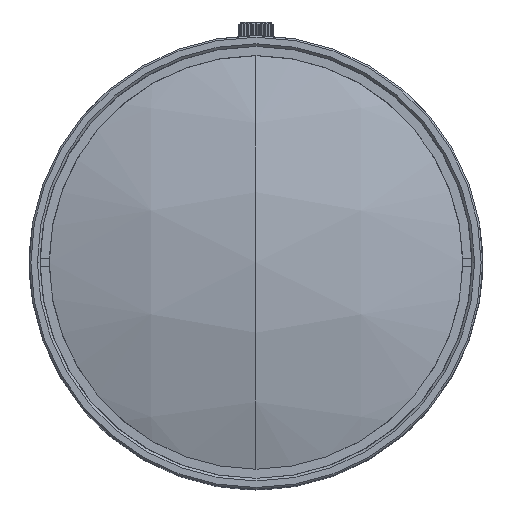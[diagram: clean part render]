
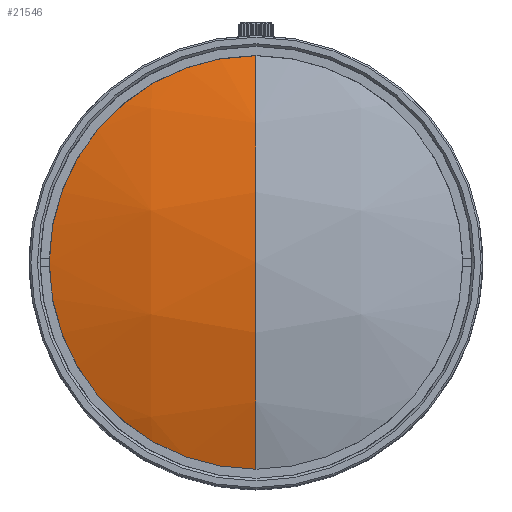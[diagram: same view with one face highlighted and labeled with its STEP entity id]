
A CAD part, top view. The second image highlights one B-rep face of the part: STEP entity #21546.
In plain terms, the highlighted spherical face has radius 71 mm.
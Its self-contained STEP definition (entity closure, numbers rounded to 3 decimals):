
#744 = CARTESIAN_POINT ( 'NONE',  ( 0., -23.733, 95.416 ) ) ;
#1112 = ORIENTED_EDGE ( 'NONE', *, *, #12183, .F. ) ;
#2646 = DIRECTION ( 'NONE',  ( -1., 0., 0. ) ) ;
#3072 = CARTESIAN_POINT ( 'NONE',  ( 0., 23.733, 95.416 ) ) ;
#3643 = CARTESIAN_POINT ( 'NONE',  ( 0., 0., 28.5 ) ) ;
#4101 = DIRECTION ( 'NONE',  ( 0., 0., -1. ) ) ;
#5099 = EDGE_CURVE ( 'NONE', #21226, #8170, #25627, .T. ) ;
#6313 = CARTESIAN_POINT ( 'NONE',  ( 0., 0., 99.5 ) ) ;
#7229 = VERTEX_POINT ( 'NONE', #6313 ) ;
#7259 = DIRECTION ( 'NONE',  ( 0., 1., 0. ) ) ;
#8170 = VERTEX_POINT ( 'NONE', #744 ) ;
#9112 = DIRECTION ( 'NONE',  ( 0., 0., 1. ) ) ;
#9807 = SPHERICAL_SURFACE ( 'NONE', #27283, 71. ) ;
#11344 = CARTESIAN_POINT ( 'NONE',  ( 0., 0., 95.416 ) ) ;
#11966 = DIRECTION ( 'NONE',  ( 0., 1., 0. ) ) ;
#12183 = EDGE_CURVE ( 'NONE', #21226, #7229, #14260, .T. ) ;
#12190 = DIRECTION ( 'NONE',  ( 0., -1., 0. ) ) ;
#12496 = FACE_OUTER_BOUND ( 'NONE', #20010, .T. ) ;
#14260 = CIRCLE ( 'NONE', #18827, 71. ) ;
#18827 = AXIS2_PLACEMENT_3D ( 'NONE', #3643, #23067, #4101 ) ;
#19146 = AXIS2_PLACEMENT_3D ( 'NONE', #24781, #26998, #12190 ) ;
#19372 = CARTESIAN_POINT ( 'NONE',  ( 0., 0., 28.5 ) ) ;
#20010 = EDGE_LOOP ( 'NONE', ( #30155, #25721, #1112 ) ) ;
#20528 = AXIS2_PLACEMENT_3D ( 'NONE', #11344, #9112, #11966 ) ;
#21187 = CIRCLE ( 'NONE', #19146, 71. ) ;
#21226 = VERTEX_POINT ( 'NONE', #3072 ) ;
#21527 = EDGE_CURVE ( 'NONE', #8170, #7229, #21187, .T. ) ;
#21546 = ADVANCED_FACE ( 'NONE', ( #12496 ), #9807, .T. ) ;
#23067 = DIRECTION ( 'NONE',  ( 1., 0., 0. ) ) ;
#24781 = CARTESIAN_POINT ( 'NONE',  ( 0., 0., 28.5 ) ) ;
#25627 = CIRCLE ( 'NONE', #20528, 23.733 ) ;
#25721 = ORIENTED_EDGE ( 'NONE', *, *, #21527, .T. ) ;
#26998 = DIRECTION ( 'NONE',  ( -1., 0., 0. ) ) ;
#27283 = AXIS2_PLACEMENT_3D ( 'NONE', #19372, #2646, #7259 ) ;
#30155 = ORIENTED_EDGE ( 'NONE', *, *, #5099, .T. ) ;
